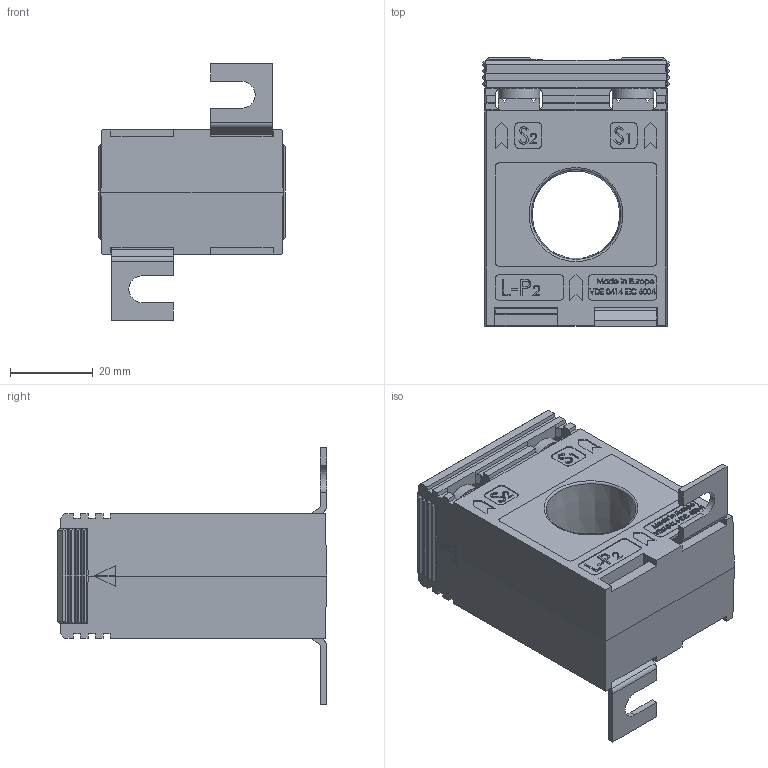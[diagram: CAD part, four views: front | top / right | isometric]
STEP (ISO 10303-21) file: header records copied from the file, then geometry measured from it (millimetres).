
FILE_DESCRIPTION(/* description */ (''),/* implementation_level */ '2;1');
FILE_NAME(/* name */ 'ASR20.3.stp',/* time_stamp */ '2024-03-05T09:42:26+01:00',/* author */ ('JDI'),/* organization */ (''),/* preprocessor_version */ 'ST-DEVELOPER v19.2',/* originating_system */ 'Autodesk Inventor 2023',/* authorisation */ '');
FILE_SCHEMA (('AUTOMOTIVE_DESIGN { 1 0 10303 214 3 1 1 }'));
Products named in the file (1): ASR20.3
Bounding box: 45 x 65 x 62 mm (x, y, z)
Volume: 67060.9 mm3; surface area: 22281.3 mm2
Topology: 1 solids, 1 shells, 1488 faces, 3950 edges, 2546 vertices
Faces by surface type: plane 1076, bspline 312, cylinder 68, cone 18, sphere 8, torus 6
Full cylindrical faces by diameter (mm): 2.95 x2, 10 x4
Entity records: 63792 total; most frequent: CARTESIAN_POINT 27305, ORIENTED_EDGE 7900, DIRECTION 5996, EDGE_CURVE 3950, LINE 2994, VECTOR 2994, VERTEX_POINT 2546, EDGE_LOOP 1628
